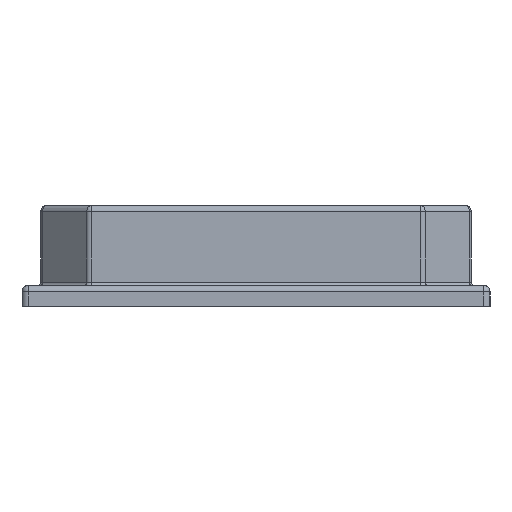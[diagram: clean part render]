
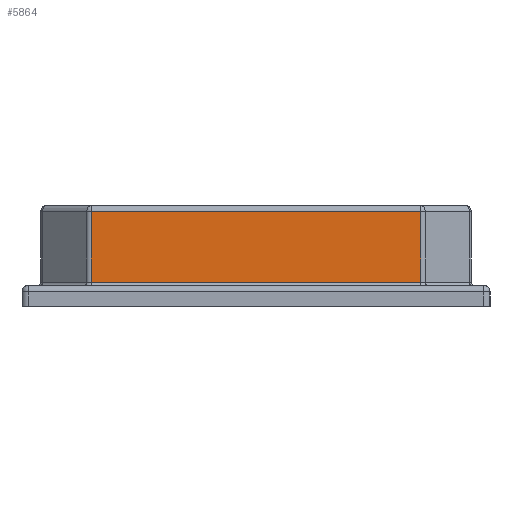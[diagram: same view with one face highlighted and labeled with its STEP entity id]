
A CAD part, left-side view. The second image highlights one B-rep face of the part: STEP entity #5864.
In plain terms, the highlighted planar face has unit normal (-1, 0, 0).
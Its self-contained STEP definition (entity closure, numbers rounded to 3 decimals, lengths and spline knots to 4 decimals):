
#2470=ORIENTED_EDGE('',*,*,#3698,.T.);
#2471=ORIENTED_EDGE('',*,*,#3699,.T.);
#2472=ORIENTED_EDGE('',*,*,#3700,.T.);
#2473=ORIENTED_EDGE('',*,*,#3701,.T.);
#3698=EDGE_CURVE('',#4310,#4311,#4540,.T.);
#3699=EDGE_CURVE('',#4311,#4312,#4541,.F.);
#3700=EDGE_CURVE('',#4312,#4313,#4542,.F.);
#3701=EDGE_CURVE('',#4313,#4310,#4543,.T.);
#4310=VERTEX_POINT('',#9278);
#4311=VERTEX_POINT('',#9279);
#4312=VERTEX_POINT('',#9281);
#4313=VERTEX_POINT('',#9283);
#4540=LINE('',#9277,#4878);
#4541=LINE('',#9280,#4879);
#4542=LINE('',#9282,#4880);
#4543=LINE('',#9284,#4881);
#4878=VECTOR('',#7490,39.3701);
#4879=VECTOR('',#7491,39.3701);
#4880=VECTOR('',#7492,39.3701);
#4881=VECTOR('',#7493,39.3701);
#5142=EDGE_LOOP('',(#2470,#2471,#2472,#2473));
#5464=FACE_BOUND('',#5142,.T.);
#5731=PLANE('',#6507);
#5864=ADVANCED_FACE('',(#5464),#5731,.T.);
#6507=AXIS2_PLACEMENT_3D('',#9276,#7488,#7489);
#7488=DIRECTION('',(-1.,0.,0.));
#7489=DIRECTION('',(0.,-1.,0.));
#7490=DIRECTION('',(0.,0.,-1.));
#7491=DIRECTION('',(0.,1.,0.));
#7492=DIRECTION('',(0.,0.,-1.));
#7493=DIRECTION('',(0.,1.,0.));
#9276=CARTESIAN_POINT('',(-5.749,-3.134,1.9));
#9277=CARTESIAN_POINT('',(-5.749,3.0843,1.9));
#9278=CARTESIAN_POINT('',(-5.749,3.0843,1.78));
#9279=CARTESIAN_POINT('',(-5.749,3.0843,0.46));
#9280=CARTESIAN_POINT('',(-5.749,-3.0843,0.46));
#9281=CARTESIAN_POINT('',(-5.749,-3.0843,0.46));
#9282=CARTESIAN_POINT('',(-5.749,-3.0843,1.9));
#9283=CARTESIAN_POINT('',(-5.749,-3.0843,1.78));
#9284=CARTESIAN_POINT('',(-5.749,3.134,1.78));
